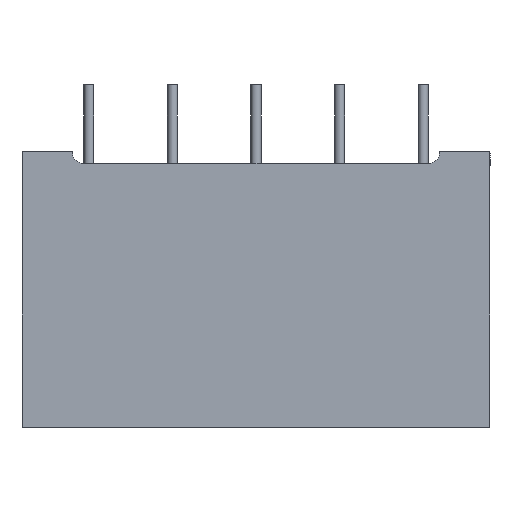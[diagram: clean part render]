
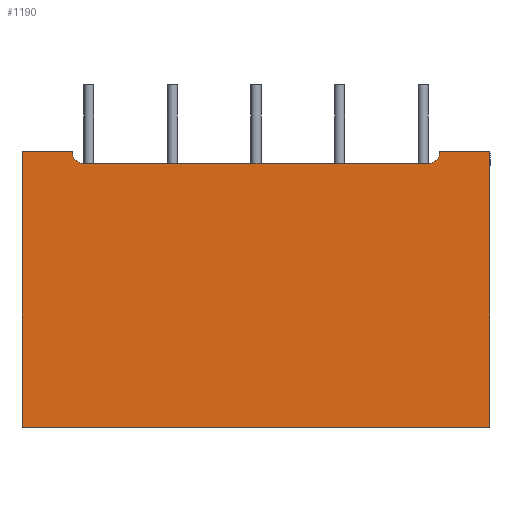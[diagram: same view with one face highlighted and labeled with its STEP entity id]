
A CAD part, front view. The second image highlights one B-rep face of the part: STEP entity #1190.
In plain terms, the highlighted planar face has unit normal (0, -1, 0).
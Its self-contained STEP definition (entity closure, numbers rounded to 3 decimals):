
#749=CARTESIAN_POINT('',(-10.3,-22.5,15.8));
#750=VERTEX_POINT('',#749);
#757=CARTESIAN_POINT('',(10.3,-22.5,15.8));
#758=VERTEX_POINT('',#757);
#759=CARTESIAN_POINT('',(10.3,-22.5,15.8));
#760=DIRECTION('',(-1.0,0.0,0.0));
#761=VECTOR('',#760,20.6);
#762=LINE('',#759,#761);
#763=EDGE_CURVE('',#758,#750,#762,.T.);
#872=CARTESIAN_POINT('',(11.,-22.5,16.5));
#873=VERTEX_POINT('',#872);
#874=CARTESIAN_POINT('',(10.3,-22.5,16.5));
#875=DIRECTION('',(0.0,-1.,0.0));
#876=DIRECTION('',(0.707,0.0,-0.707));
#877=AXIS2_PLACEMENT_3D('',#874,#875,#876);
#878=CIRCLE('',#877,0.7);
#879=EDGE_CURVE('',#758,#873,#878,.T.);
#896=CARTESIAN_POINT('',(-11.,-22.5,16.5));
#897=VERTEX_POINT('',#896);
#904=CARTESIAN_POINT('',(-10.3,-22.5,16.5));
#905=DIRECTION('',(0.,-1.,0.));
#906=DIRECTION('',(-0.707,0.,-0.707));
#907=AXIS2_PLACEMENT_3D('',#904,#905,#906);
#908=CIRCLE('',#907,0.7);
#909=EDGE_CURVE('',#897,#750,#908,.T.);
#1038=CARTESIAN_POINT('',(14.,-22.5,16.5));
#1039=VERTEX_POINT('',#1038);
#1040=CARTESIAN_POINT('',(14.,-22.5,16.5));
#1041=DIRECTION('',(-1.0,0.0,0.0));
#1042=VECTOR('',#1041,3.0);
#1043=LINE('',#1040,#1042);
#1044=EDGE_CURVE('',#1039,#873,#1043,.T.);
#1064=CARTESIAN_POINT('',(-14.,-22.5,16.5));
#1065=VERTEX_POINT('',#1064);
#1072=CARTESIAN_POINT('',(-11.,-22.5,16.5));
#1073=DIRECTION('',(-1.0,0.0,0.0));
#1074=VECTOR('',#1073,3.);
#1075=LINE('',#1072,#1074);
#1076=EDGE_CURVE('',#897,#1065,#1075,.T.);
#1136=CARTESIAN_POINT('',(14.,-22.5,0.0));
#1137=VERTEX_POINT('',#1136);
#1138=CARTESIAN_POINT('',(14.,-22.5,0.0));
#1139=DIRECTION('',(0.0,0.0,1.0));
#1140=VECTOR('',#1139,16.5);
#1141=LINE('',#1138,#1140);
#1142=EDGE_CURVE('',#1137,#1039,#1141,.T.);
#1163=CARTESIAN_POINT('',(14.,-22.5,0.0));
#1164=DIRECTION('',(0.0,-1.0,0.0));
#1165=DIRECTION('',(0.0,0.0,-1.0));
#1166=AXIS2_PLACEMENT_3D('',#1163,#1164,#1165);
#1167=PLANE('',#1166);
#1168=ORIENTED_EDGE('',*,*,#763,.T.);
#1169=ORIENTED_EDGE('',*,*,#909,.F.);
#1170=ORIENTED_EDGE('',*,*,#1076,.T.);
#1171=CARTESIAN_POINT('',(-14.,-22.5,0.0));
#1172=VERTEX_POINT('',#1171);
#1173=CARTESIAN_POINT('',(-14.,-22.5,0.0));
#1174=DIRECTION('',(0.0,0.0,1.0));
#1175=VECTOR('',#1174,16.5);
#1176=LINE('',#1173,#1175);
#1177=EDGE_CURVE('',#1172,#1065,#1176,.T.);
#1178=ORIENTED_EDGE('',*,*,#1177,.F.);
#1179=CARTESIAN_POINT('',(14.,-22.5,0.0));
#1180=DIRECTION('',(-1.0,0.0,0.0));
#1181=VECTOR('',#1180,28.);
#1182=LINE('',#1179,#1181);
#1183=EDGE_CURVE('',#1137,#1172,#1182,.T.);
#1184=ORIENTED_EDGE('',*,*,#1183,.F.);
#1185=ORIENTED_EDGE('',*,*,#1142,.T.);
#1186=ORIENTED_EDGE('',*,*,#1044,.T.);
#1187=ORIENTED_EDGE('',*,*,#879,.F.);
#1188=EDGE_LOOP('',(#1168,#1169,#1170,#1178,#1184,#1185,#1186,#1187));
#1189=FACE_OUTER_BOUND('',#1188,.T.);
#1190=ADVANCED_FACE('',(#1189),#1167,.T.);
